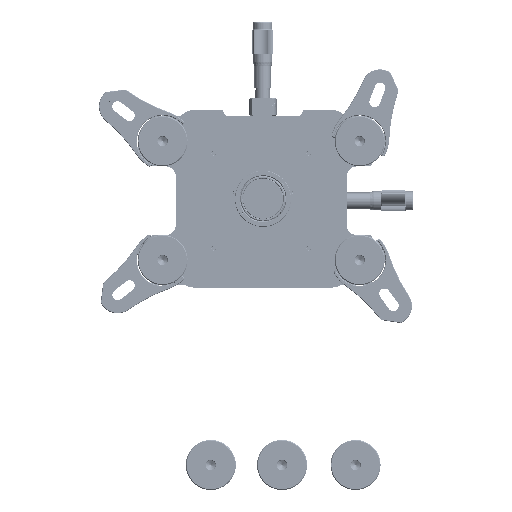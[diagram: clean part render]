
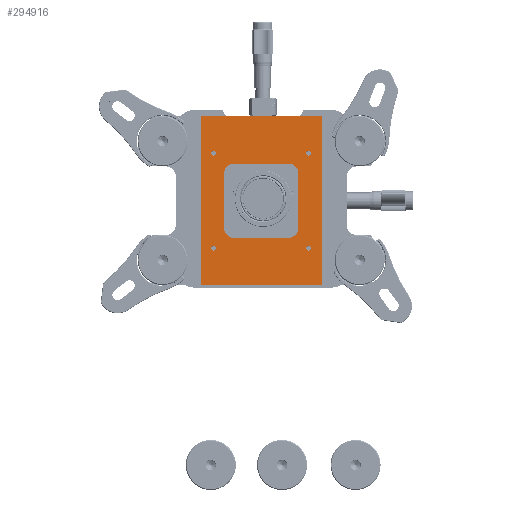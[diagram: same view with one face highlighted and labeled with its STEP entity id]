
A CAD part, top view. The second image highlights one B-rep face of the part: STEP entity #294916.
In plain terms, the highlighted planar face has unit normal (0, 0, 1) as drawn and (0, -1, 0) by its records, which use the part's own axes.
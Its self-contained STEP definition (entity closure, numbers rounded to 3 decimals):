
#285021=DIRECTION('',(1.,0.,0.));
#285022=VECTOR('',#285021,76.2);
#285023=CARTESIAN_POINT('',(-38.1,0.254,53.34));
#285024=LINE('',#285023,#285022);
#285025=DIRECTION('',(0.,0.,-1.));
#285026=VECTOR('',#285025,106.68);
#285027=CARTESIAN_POINT('',(38.1,0.254,53.34));
#285028=LINE('',#285027,#285026);
#285029=DIRECTION('',(-1.,0.,0.));
#285030=VECTOR('',#285029,76.2);
#285031=CARTESIAN_POINT('',(38.1,0.254,-53.34));
#285032=LINE('',#285031,#285030);
#285033=DIRECTION('',(0.,0.,1.));
#285034=VECTOR('',#285033,106.68);
#285035=CARTESIAN_POINT('',(-38.1,0.254,-53.34));
#285036=LINE('',#285035,#285034);
#285037=CARTESIAN_POINT('',(17.145,0.254,-17.145));
#285038=DIRECTION('',(0.,-1.,0.));
#285039=DIRECTION('',(0.,0.,-1.));
#285040=AXIS2_PLACEMENT_3D('',#285037,#285038,#285039);
#285042=CARTESIAN_POINT('',(17.145,0.254,17.145));
#285043=DIRECTION('',(0.,-1.,0.));
#285044=DIRECTION('',(1.,0.,0.));
#285045=AXIS2_PLACEMENT_3D('',#285042,#285043,#285044);
#285047=CARTESIAN_POINT('',(-17.145,0.254,17.145));
#285048=DIRECTION('',(0.,-1.,0.));
#285049=DIRECTION('',(0.,0.,1.));
#285050=AXIS2_PLACEMENT_3D('',#285047,#285048,#285049);
#285052=CARTESIAN_POINT('',(-17.145,0.254,-17.145));
#285053=DIRECTION('',(0.,-1.,0.));
#285054=DIRECTION('',(-1.,0.,0.));
#285055=AXIS2_PLACEMENT_3D('',#285052,#285053,#285054);
#285057=CARTESIAN_POINT('',(-30.,0.254,30.));
#285058=DIRECTION('',(0.,-1.,0.));
#285059=DIRECTION('',(1.,0.,0.));
#285060=AXIS2_PLACEMENT_3D('',#285057,#285058,#285059);
#285062=CARTESIAN_POINT('',(-30.,0.254,30.));
#285063=DIRECTION('',(0.,-1.,0.));
#285064=DIRECTION('',(-1.,0.,0.));
#285065=AXIS2_PLACEMENT_3D('',#285062,#285063,#285064);
#285067=CARTESIAN_POINT('',(30.,0.254,30.));
#285068=DIRECTION('',(0.,-1.,0.));
#285069=DIRECTION('',(1.,0.,0.));
#285070=AXIS2_PLACEMENT_3D('',#285067,#285068,#285069);
#285072=CARTESIAN_POINT('',(30.,0.254,30.));
#285073=DIRECTION('',(0.,-1.,0.));
#285074=DIRECTION('',(-1.,0.,0.));
#285075=AXIS2_PLACEMENT_3D('',#285072,#285073,#285074);
#285077=CARTESIAN_POINT('',(30.,0.254,-30.));
#285078=DIRECTION('',(0.,-1.,0.));
#285079=DIRECTION('',(1.,0.,0.));
#285080=AXIS2_PLACEMENT_3D('',#285077,#285078,#285079);
#285082=CARTESIAN_POINT('',(30.,0.254,-30.));
#285083=DIRECTION('',(0.,-1.,0.));
#285084=DIRECTION('',(-1.,0.,0.));
#285085=AXIS2_PLACEMENT_3D('',#285082,#285083,#285084);
#285087=CARTESIAN_POINT('',(-30.,0.254,-30.));
#285088=DIRECTION('',(0.,-1.,0.));
#285089=DIRECTION('',(1.,0.,0.));
#285090=AXIS2_PLACEMENT_3D('',#285087,#285088,#285089);
#285092=CARTESIAN_POINT('',(-30.,0.254,-30.));
#285093=DIRECTION('',(0.,-1.,0.));
#285094=DIRECTION('',(-1.,0.,0.));
#285095=AXIS2_PLACEMENT_3D('',#285092,#285093,#285094);
#285109=DIRECTION('',(-1.,0.,0.));
#285110=VECTOR('',#285109,34.29);
#285111=CARTESIAN_POINT('',(17.145,0.254,-23.495));
#285112=LINE('',#285111,#285110);
#285125=DIRECTION('',(0.,0.,1.));
#285126=VECTOR('',#285125,34.29);
#285127=CARTESIAN_POINT('',(-23.495,0.254,-17.145));
#285128=LINE('',#285127,#285126);
#285141=DIRECTION('',(1.,0.,0.));
#285142=VECTOR('',#285141,34.29);
#285143=CARTESIAN_POINT('',(-17.145,0.254,23.495));
#285144=LINE('',#285143,#285142);
#285157=DIRECTION('',(0.,0.,-1.));
#285158=VECTOR('',#285157,34.29);
#285159=CARTESIAN_POINT('',(23.495,0.254,17.145));
#285160=LINE('',#285159,#285158);
#290948=CARTESIAN_POINT('',(-38.1,0.254,-53.34));
#290949=VERTEX_POINT('',#290948);
#290950=CARTESIAN_POINT('',(38.1,0.254,-53.34));
#290951=VERTEX_POINT('',#290950);
#291094=CARTESIAN_POINT('',(38.1,0.254,53.34));
#291095=VERTEX_POINT('',#291094);
#291096=CARTESIAN_POINT('',(-38.1,0.254,53.34));
#291097=VERTEX_POINT('',#291096);
#291130=CARTESIAN_POINT('',(17.145,0.254,-23.495));
#291131=CARTESIAN_POINT('',(-17.145,0.254,-23.495));
#291132=VERTEX_POINT('',#291130);
#291133=VERTEX_POINT('',#291131);
#291134=CARTESIAN_POINT('',(23.495,0.254,-17.145));
#291135=VERTEX_POINT('',#291134);
#291136=CARTESIAN_POINT('',(23.495,0.254,17.145));
#291137=VERTEX_POINT('',#291136);
#291138=CARTESIAN_POINT('',(17.145,0.254,23.495));
#291139=VERTEX_POINT('',#291138);
#291140=CARTESIAN_POINT('',(-17.145,0.254,23.495));
#291141=VERTEX_POINT('',#291140);
#291142=CARTESIAN_POINT('',(-23.495,0.254,17.145));
#291143=VERTEX_POINT('',#291142);
#291144=CARTESIAN_POINT('',(-23.495,0.254,-17.145));
#291145=VERTEX_POINT('',#291144);
#291146=CARTESIAN_POINT('',(-28.5,0.254,30.));
#291147=CARTESIAN_POINT('',(-31.5,0.254,30.));
#291148=VERTEX_POINT('',#291146);
#291149=VERTEX_POINT('',#291147);
#291150=CARTESIAN_POINT('',(31.5,0.254,30.));
#291151=CARTESIAN_POINT('',(28.5,0.254,30.));
#291152=VERTEX_POINT('',#291150);
#291153=VERTEX_POINT('',#291151);
#291154=CARTESIAN_POINT('',(31.5,0.254,-30.));
#291155=CARTESIAN_POINT('',(28.5,0.254,-30.));
#291156=VERTEX_POINT('',#291154);
#291157=VERTEX_POINT('',#291155);
#291158=CARTESIAN_POINT('',(-28.5,0.254,-30.));
#291159=CARTESIAN_POINT('',(-31.5,0.254,-30.));
#291160=VERTEX_POINT('',#291158);
#291161=VERTEX_POINT('',#291159);
#294862=CARTESIAN_POINT('',(38.1,0.254,53.34));
#294863=DIRECTION('',(0.,1.,0.));
#294864=DIRECTION('',(0.,0.,1.));
#294865=AXIS2_PLACEMENT_3D('',#294862,#294863,#294864);
#294866=PLANE('',#294865);
#294867=ORIENTED_EDGE('',*,*,#294606,.T.);
#294868=ORIENTED_EDGE('',*,*,#294856,.T.);
#294869=ORIENTED_EDGE('',*,*,#294014,.T.);
#294871=ORIENTED_EDGE('',*,*,#294870,.T.);
#294872=EDGE_LOOP('',(#294867,#294868,#294869,#294871));
#294873=FACE_OUTER_BOUND('',#294872,.F.);
#294875=ORIENTED_EDGE('',*,*,#294874,.F.);
#294877=ORIENTED_EDGE('',*,*,#294876,.T.);
#294879=ORIENTED_EDGE('',*,*,#294878,.F.);
#294881=ORIENTED_EDGE('',*,*,#294880,.T.);
#294883=ORIENTED_EDGE('',*,*,#294882,.F.);
#294885=ORIENTED_EDGE('',*,*,#294884,.T.);
#294887=ORIENTED_EDGE('',*,*,#294886,.F.);
#294889=ORIENTED_EDGE('',*,*,#294888,.T.);
#294890=EDGE_LOOP('',(#294875,#294877,#294879,#294881,#294883,#294885,#294887,
#294889));
#294891=FACE_BOUND('',#294890,.F.);
#294893=ORIENTED_EDGE('',*,*,#294892,.T.);
#294895=ORIENTED_EDGE('',*,*,#294894,.T.);
#294896=EDGE_LOOP('',(#294893,#294895));
#294897=FACE_BOUND('',#294896,.F.);
#294899=ORIENTED_EDGE('',*,*,#294898,.T.);
#294901=ORIENTED_EDGE('',*,*,#294900,.T.);
#294902=EDGE_LOOP('',(#294899,#294901));
#294903=FACE_BOUND('',#294902,.F.);
#294905=ORIENTED_EDGE('',*,*,#294904,.T.);
#294907=ORIENTED_EDGE('',*,*,#294906,.T.);
#294908=EDGE_LOOP('',(#294905,#294907));
#294909=FACE_BOUND('',#294908,.F.);
#294911=ORIENTED_EDGE('',*,*,#294910,.T.);
#294913=ORIENTED_EDGE('',*,*,#294912,.T.);
#294914=EDGE_LOOP('',(#294911,#294913));
#294915=FACE_BOUND('',#294914,.F.);
#294916=ADVANCED_FACE('',(#294873,#294891,#294897,#294903,#294909,#294915),
#294866,.F.);
#285041=CIRCLE('',#285040,6.35);
#285046=CIRCLE('',#285045,6.35);
#285051=CIRCLE('',#285050,6.35);
#285056=CIRCLE('',#285055,6.35);
#285061=CIRCLE('',#285060,1.5);
#285066=CIRCLE('',#285065,1.5);
#285071=CIRCLE('',#285070,1.5);
#285076=CIRCLE('',#285075,1.5);
#285081=CIRCLE('',#285080,1.5);
#285086=CIRCLE('',#285085,1.5);
#285091=CIRCLE('',#285090,1.5);
#285096=CIRCLE('',#285095,1.5);
#294014=EDGE_CURVE('',#290951,#290949,#285032,.T.);
#294606=EDGE_CURVE('',#291097,#291095,#285024,.T.);
#294856=EDGE_CURVE('',#291095,#290951,#285028,.T.);
#294870=EDGE_CURVE('',#290949,#291097,#285036,.T.);
#294874=EDGE_CURVE('',#291132,#291133,#285112,.T.);
#294876=EDGE_CURVE('',#291132,#291135,#285041,.T.);
#294878=EDGE_CURVE('',#291137,#291135,#285160,.T.);
#294880=EDGE_CURVE('',#291137,#291139,#285046,.T.);
#294882=EDGE_CURVE('',#291141,#291139,#285144,.T.);
#294884=EDGE_CURVE('',#291141,#291143,#285051,.T.);
#294886=EDGE_CURVE('',#291145,#291143,#285128,.T.);
#294888=EDGE_CURVE('',#291145,#291133,#285056,.T.);
#294892=EDGE_CURVE('',#291148,#291149,#285061,.T.);
#294894=EDGE_CURVE('',#291149,#291148,#285066,.T.);
#294898=EDGE_CURVE('',#291152,#291153,#285071,.T.);
#294900=EDGE_CURVE('',#291153,#291152,#285076,.T.);
#294904=EDGE_CURVE('',#291156,#291157,#285081,.T.);
#294906=EDGE_CURVE('',#291157,#291156,#285086,.T.);
#294910=EDGE_CURVE('',#291160,#291161,#285091,.T.);
#294912=EDGE_CURVE('',#291161,#291160,#285096,.T.);
